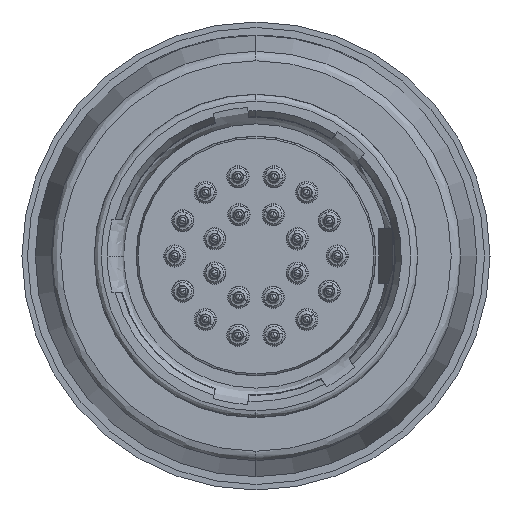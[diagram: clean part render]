
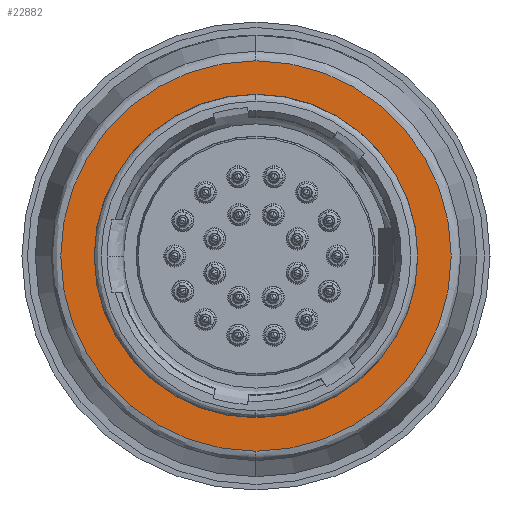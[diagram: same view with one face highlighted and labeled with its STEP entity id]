
A CAD part, left-side view. The second image highlights one B-rep face of the part: STEP entity #22882.
In plain terms, the highlighted planar face has unit normal (-1, 0, 0).
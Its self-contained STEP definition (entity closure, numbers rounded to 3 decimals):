
#3943 = AXIS2_PLACEMENT_3D ( 'NONE', #10706, #26887, #11491 ) ;
#5396 = DIRECTION ( 'NONE',  ( 0., 0., -1. ) ) ;
#5684 = EDGE_CURVE ( 'NONE', #37716, #17061, #33853, .T. ) ;
#5856 = CARTESIAN_POINT ( 'NONE',  ( -2.34, 0., 7.285 ) ) ;
#6298 = CARTESIAN_POINT ( 'NONE',  ( -2.34, 0., 0. ) ) ;
#6524 = FACE_BOUND ( 'NONE', #7501, .T. ) ;
#7033 = AXIS2_PLACEMENT_3D ( 'NONE', #10486, #9970, #18210 ) ;
#7501 = EDGE_LOOP ( 'NONE', ( #49542, #15164 ) ) ;
#8799 = ORIENTED_EDGE ( 'NONE', *, *, #18380, .F. ) ;
#9970 = DIRECTION ( 'NONE',  ( -1., 0., 0. ) ) ;
#10486 = CARTESIAN_POINT ( 'NONE',  ( -2.34, 7.325, 0. ) ) ;
#10706 = CARTESIAN_POINT ( 'NONE',  ( -2.34, 0., 0. ) ) ;
#11491 = DIRECTION ( 'NONE',  ( 0., 0., -1. ) ) ;
#12678 = DIRECTION ( 'NONE',  ( 1., 0., 0. ) ) ;
#14244 = DIRECTION ( 'NONE',  ( 1., 0., 0. ) ) ;
#15163 = AXIS2_PLACEMENT_3D ( 'NONE', #24769, #17073, #5396 ) ;
#15164 = ORIENTED_EDGE ( 'NONE', *, *, #45744, .T. ) ;
#15169 = CIRCLE ( 'NONE', #39712, 8.793 ) ;
#16428 = CARTESIAN_POINT ( 'NONE',  ( -2.34, 0., 0. ) ) ;
#17061 = VERTEX_POINT ( 'NONE', #44415 ) ;
#17073 = DIRECTION ( 'NONE',  ( 1., 0., 0. ) ) ;
#18210 = DIRECTION ( 'NONE',  ( 0., -0.707, 0.707 ) ) ;
#18380 = EDGE_CURVE ( 'NONE', #25779, #48014, #25947, .T. ) ;
#19173 = CARTESIAN_POINT ( 'NONE',  ( -2.34, 0., 8.793 ) ) ;
#22501 = DIRECTION ( 'NONE',  ( 0., 0., 1. ) ) ;
#22882 = ADVANCED_FACE ( 'NONE', ( #6524, #34117 ), #38350, .T. ) ;
#24769 = CARTESIAN_POINT ( 'NONE',  ( -2.34, 0., 0. ) ) ;
#25779 = VERTEX_POINT ( 'NONE', #37084 ) ;
#25947 = CIRCLE ( 'NONE', #3943, 8.793 ) ;
#26159 = CIRCLE ( 'NONE', #15163, 7.285 ) ;
#26887 = DIRECTION ( 'NONE',  ( 1., 0., 0. ) ) ;
#32537 = EDGE_LOOP ( 'NONE', ( #43422, #8799 ) ) ;
#33853 = CIRCLE ( 'NONE', #34736, 7.285 ) ;
#34117 = FACE_OUTER_BOUND ( 'NONE', #32537, .T. ) ;
#34736 = AXIS2_PLACEMENT_3D ( 'NONE', #16428, #12678, #48124 ) ;
#37084 = CARTESIAN_POINT ( 'NONE',  ( -2.34, 0., -8.793 ) ) ;
#37716 = VERTEX_POINT ( 'NONE', #5856 ) ;
#38350 = PLANE ( 'NONE',  #7033 ) ;
#39712 = AXIS2_PLACEMENT_3D ( 'NONE', #6298, #14244, #22501 ) ;
#43422 = ORIENTED_EDGE ( 'NONE', *, *, #44497, .F. ) ;
#44415 = CARTESIAN_POINT ( 'NONE',  ( -2.34, 0., -7.285 ) ) ;
#44497 = EDGE_CURVE ( 'NONE', #48014, #25779, #15169, .T. ) ;
#45744 = EDGE_CURVE ( 'NONE', #17061, #37716, #26159, .T. ) ;
#48014 = VERTEX_POINT ( 'NONE', #19173 ) ;
#48124 = DIRECTION ( 'NONE',  ( 0., 0., 1. ) ) ;
#49542 = ORIENTED_EDGE ( 'NONE', *, *, #5684, .T. ) ;
